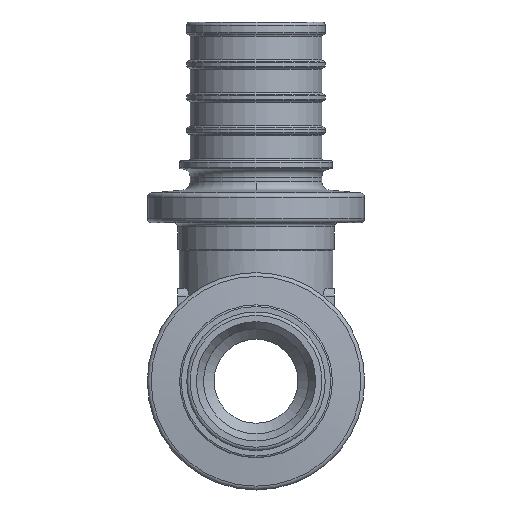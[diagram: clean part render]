
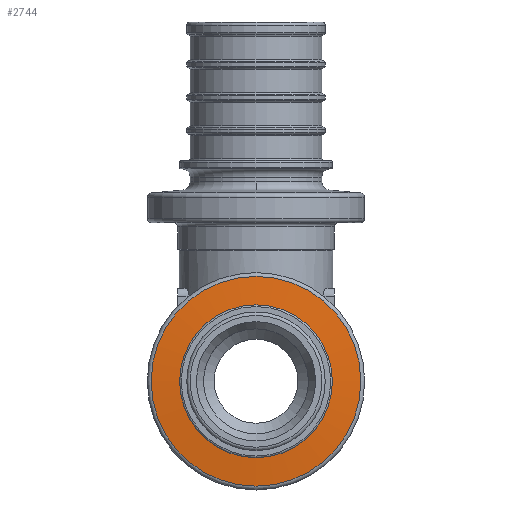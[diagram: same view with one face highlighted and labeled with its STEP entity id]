
A CAD part, front view. The second image highlights one B-rep face of the part: STEP entity #2744.
In plain terms, the highlighted conical face has half-angle 85 degrees and reference radius 10.628 mm.
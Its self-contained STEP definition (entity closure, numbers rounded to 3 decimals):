
#2744=ADVANCED_FACE('',(#6098,#6100),#6102,.T.);
#6098=FACE_OUTER_BOUND('',#6099,.T.);
#6099=EDGE_LOOP('',(#9115));
#6100=FACE_BOUND('',#6101,.T.);
#6101=EDGE_LOOP('',(#9116,#9117));
#6102=CONICAL_SURFACE('',#6103,10.628,1.484);
#6103=AXIS2_PLACEMENT_3D('',#6104,#6105,#6106);
#6104=CARTESIAN_POINT('',(0.,-22.603,0.));
#6105=DIRECTION('',(0.,1.,0.));
#6106=DIRECTION('',(0.,0.,-1.));
#9115=ORIENTED_EDGE('',*,*,#10185,.T.);
#9116=ORIENTED_EDGE('',*,*,#10189,.T.);
#9117=ORIENTED_EDGE('',*,*,#10190,.T.);
#10185=EDGE_CURVE('',#11670,#11670,#11671,.F.);
#10189=EDGE_CURVE('',#11678,#11679,#11680,.T.);
#10190=EDGE_CURVE('',#11679,#11678,#11681,.T.);
#11670=VERTEX_POINT('',#15580);
#11671=CIRCLE('',#15581,12.494);
#11678=VERTEX_POINT('',#15600);
#11679=VERTEX_POINT('',#15601);
#11680=CIRCLE('',#15602,8.763);
#11681=CIRCLE('',#15606,8.763);
#15580=CARTESIAN_POINT('',(0.,-22.44,-12.494));
#15581=AXIS2_PLACEMENT_3D('',#15582,#15583,#15584);
#15582=CARTESIAN_POINT('',(0.,-22.44,0.));
#15583=DIRECTION('',(0.,1.,0.));
#15584=DIRECTION('',(0.,0.,-1.));
#15600=CARTESIAN_POINT('',(0.,-22.766,-8.763));
#15601=CARTESIAN_POINT('',(-8.763,-22.766,0.));
#15602=AXIS2_PLACEMENT_3D('',#15603,#15604,#15605);
#15603=CARTESIAN_POINT('',(0.,-22.766,0.));
#15604=DIRECTION('',(0.,1.,0.));
#15605=DIRECTION('',(0.,0.,-1.));
#15606=AXIS2_PLACEMENT_3D('',#15607,#15608,#15609);
#15607=CARTESIAN_POINT('',(0.,-22.766,0.));
#15608=DIRECTION('',(0.,1.,0.));
#15609=DIRECTION('',(-1.,0.,0.));
